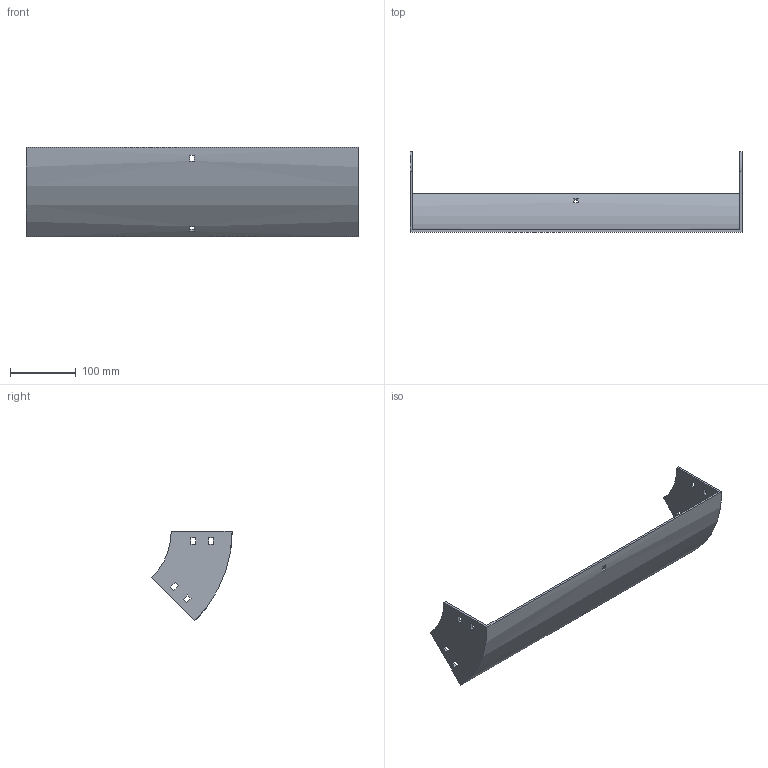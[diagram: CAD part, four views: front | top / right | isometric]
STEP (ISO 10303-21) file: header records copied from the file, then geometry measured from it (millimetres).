
FILE_DESCRIPTION (( 'STEP AP214' ), '1' );
FILE_NAME ('31B1I500.step', '2025-02-21T09:48:22', ( '' ), ( '' ), 'SwSTEP 2.0', 'SolidWorks 2023', '' );
FILE_SCHEMA (( 'AUTOMOTIVE_DESIGN' ));
Length unit declared in the file: millimetre
Products named in the file (1): 31B1I500
Bounding box: 504 x 121.79 x 136.12 mm (x, y, z)
Volume: 332606.3 mm3; surface area: 196564 mm2
Topology: 1 solids, 1 shells, 50 faces, 144 edges, 96 vertices
Faces by surface type: plane 46, cylinder 4
Entity records: 1687 total; most frequent: CARTESIAN_POINT 291, ORIENTED_EDGE 288, DIRECTION 262, EDGE_CURVE 144, LINE 128, VECTOR 128, VERTEX_POINT 96, EDGE_LOOP 70
